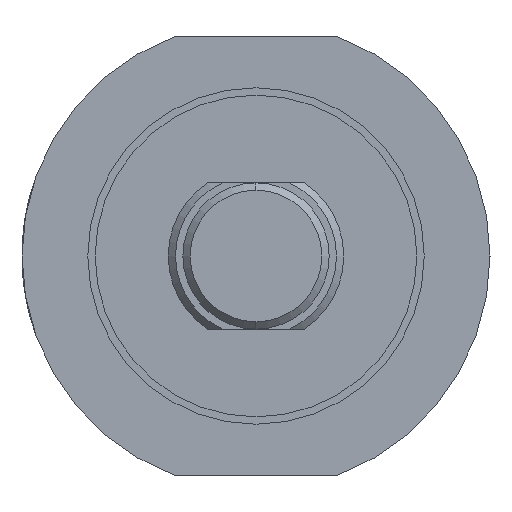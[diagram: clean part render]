
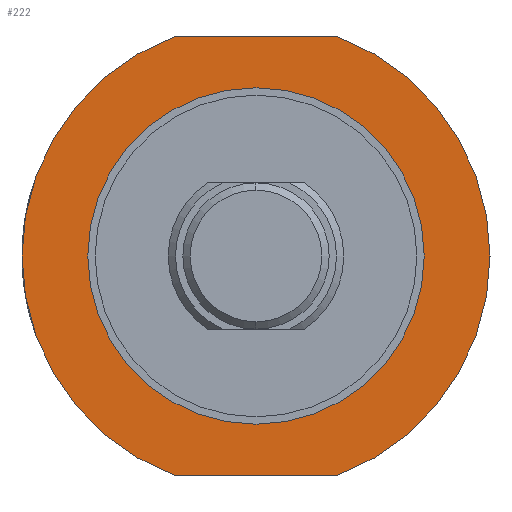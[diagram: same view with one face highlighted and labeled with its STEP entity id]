
A CAD part, left-side view. The second image highlights one B-rep face of the part: STEP entity #222.
In plain terms, the highlighted planar face has unit normal (-1, 0, 0).
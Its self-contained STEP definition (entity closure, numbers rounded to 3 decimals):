
#3 = DIRECTION ( 'NONE',  ( 0., 0., 1. ) ) ;
#27 = CIRCLE ( 'NONE', #936, 11.5 ) ;
#32 = VERTEX_POINT ( 'NONE', #914 ) ;
#70 = CARTESIAN_POINT ( 'NONE',  ( 42., 0., 11.5 ) ) ;
#115 = CARTESIAN_POINT ( 'NONE',  ( 42., 11.874, 15. ) ) ;
#157 = VERTEX_POINT ( 'NONE', #794 ) ;
#191 = VERTEX_POINT ( 'NONE', #501 ) ;
#192 = CIRCLE ( 'NONE', #1181, 11.5 ) ;
#208 = VERTEX_POINT ( 'NONE', #1362 ) ;
#212 = ORIENTED_EDGE ( 'NONE', *, *, #538, .F. ) ;
#222 = ADVANCED_FACE ( 'NONE', ( #422, #1499 ), #1015, .F. ) ;
#295 = VECTOR ( 'NONE', #564, 1000. ) ;
#317 = CARTESIAN_POINT ( 'NONE',  ( 42., 0., -16. ) ) ;
#322 = AXIS2_PLACEMENT_3D ( 'NONE', #317, #1386, #841 ) ;
#342 = DIRECTION ( 'NONE',  ( 0., -1., 0. ) ) ;
#348 = EDGE_CURVE ( 'NONE', #1376, #208, #1314, .T. ) ;
#360 = DIRECTION ( 'NONE',  ( -1., 0., 0. ) ) ;
#378 = EDGE_CURVE ( 'NONE', #191, #157, #1141, .T. ) ;
#385 = ORIENTED_EDGE ( 'NONE', *, *, #683, .F. ) ;
#405 = CARTESIAN_POINT ( 'NONE',  ( 42., 0., 0. ) ) ;
#422 = FACE_BOUND ( 'NONE', #796, .T. ) ;
#501 = CARTESIAN_POINT ( 'NONE',  ( 42., 5.568, 15. ) ) ;
#538 = EDGE_CURVE ( 'NONE', #32, #1061, #192, .T. ) ;
#547 = CARTESIAN_POINT ( 'NONE',  ( 42., 0., 0. ) ) ;
#557 = CARTESIAN_POINT ( 'NONE',  ( 42., -5.568, -15. ) ) ;
#564 = DIRECTION ( 'NONE',  ( 0., 1., 0. ) ) ;
#572 = AXIS2_PLACEMENT_3D ( 'NONE', #547, #1353, #685 ) ;
#615 = EDGE_LOOP ( 'NONE', ( #1317, #869, #773, #1345 ) ) ;
#683 = EDGE_CURVE ( 'NONE', #1061, #32, #27, .T. ) ;
#685 = DIRECTION ( 'NONE',  ( 0., 0., 1. ) ) ;
#714 = CARTESIAN_POINT ( 'NONE',  ( 42., 0., 0. ) ) ;
#773 = ORIENTED_EDGE ( 'NONE', *, *, #1539, .T. ) ;
#794 = CARTESIAN_POINT ( 'NONE',  ( 42., -5.568, 15. ) ) ;
#796 = EDGE_LOOP ( 'NONE', ( #385, #212 ) ) ;
#828 = CARTESIAN_POINT ( 'NONE',  ( 42., 0., 0. ) ) ;
#841 = DIRECTION ( 'NONE',  ( 0., 0., -1. ) ) ;
#869 = ORIENTED_EDGE ( 'NONE', *, *, #348, .F. ) ;
#914 = CARTESIAN_POINT ( 'NONE',  ( 42., 0., -11.5 ) ) ;
#936 = AXIS2_PLACEMENT_3D ( 'NONE', #405, #1299, #1487 ) ;
#958 = CARTESIAN_POINT ( 'NONE',  ( 42., 11.874, -15. ) ) ;
#1015 = PLANE ( 'NONE',  #322 ) ;
#1028 = CIRCLE ( 'NONE', #572, 16. ) ;
#1061 = VERTEX_POINT ( 'NONE', #70 ) ;
#1141 = LINE ( 'NONE', #115, #1318 ) ;
#1143 = AXIS2_PLACEMENT_3D ( 'NONE', #714, #1309, #1496 ) ;
#1144 = EDGE_CURVE ( 'NONE', #191, #208, #1028, .T. ) ;
#1181 = AXIS2_PLACEMENT_3D ( 'NONE', #828, #360, #3 ) ;
#1251 = CIRCLE ( 'NONE', #1143, 16. ) ;
#1299 = DIRECTION ( 'NONE',  ( -1., 0., 0. ) ) ;
#1309 = DIRECTION ( 'NONE',  ( -1., 0., 0. ) ) ;
#1314 = LINE ( 'NONE', #958, #295 ) ;
#1317 = ORIENTED_EDGE ( 'NONE', *, *, #1144, .T. ) ;
#1318 = VECTOR ( 'NONE', #342, 1000. ) ;
#1345 = ORIENTED_EDGE ( 'NONE', *, *, #378, .F. ) ;
#1353 = DIRECTION ( 'NONE',  ( -1., 0., 0. ) ) ;
#1362 = CARTESIAN_POINT ( 'NONE',  ( 42., 5.568, -15. ) ) ;
#1376 = VERTEX_POINT ( 'NONE', #557 ) ;
#1386 = DIRECTION ( 'NONE',  ( 1., 0., 0. ) ) ;
#1487 = DIRECTION ( 'NONE',  ( 0., 0., 1. ) ) ;
#1496 = DIRECTION ( 'NONE',  ( 0., 0., 1. ) ) ;
#1499 = FACE_OUTER_BOUND ( 'NONE', #615, .T. ) ;
#1539 = EDGE_CURVE ( 'NONE', #1376, #157, #1251, .T. ) ;
